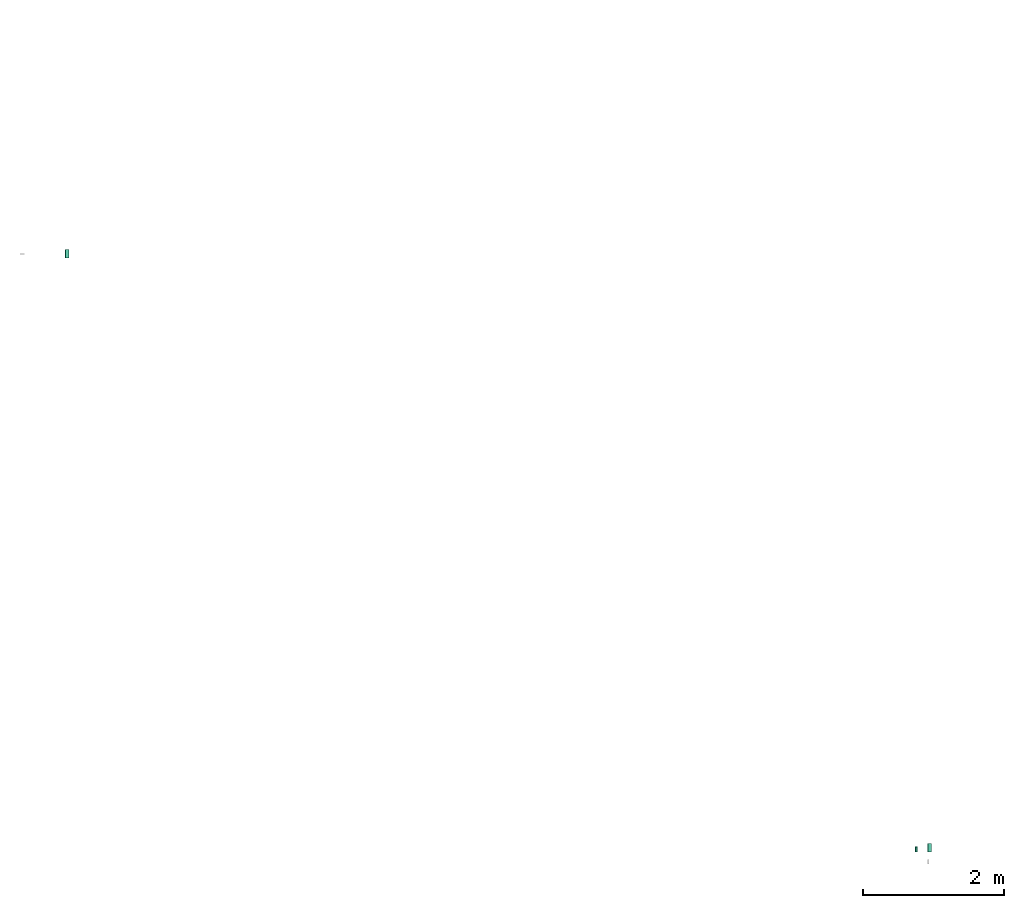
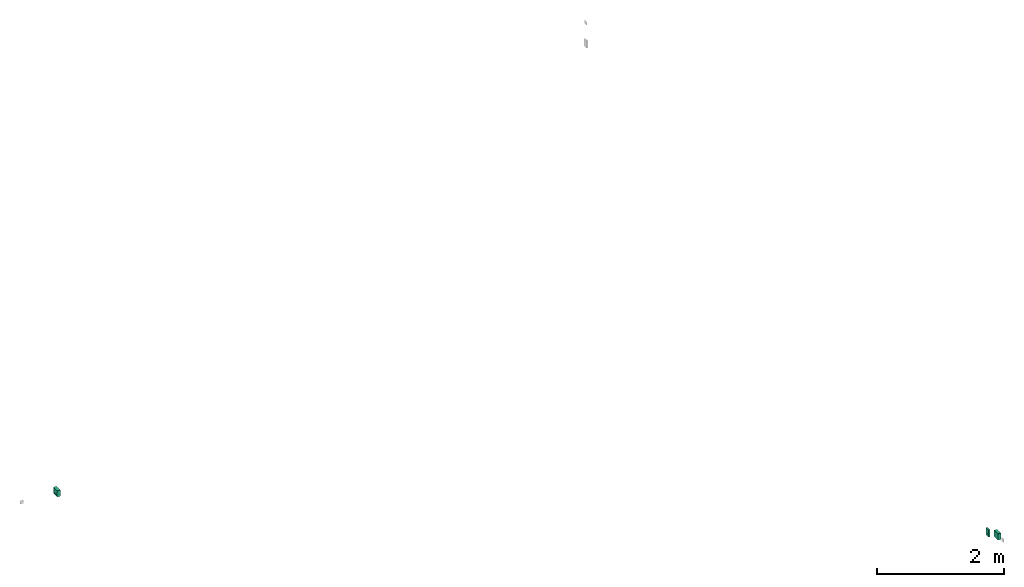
# One storey, part 1 of 5: 3 distribution control elements.
"""IFC2X3 building model written with IfcOpenShell, lengths in millimetres."""

from ifc_helpers import new_model, entity, si_unit, converted_unit, derived_unit, direction, frame, origin_with_axes, place, context, subcontext, project, spatial, open_shell, surface_model, source, transform, mapped, type_object, element, save


model = new_model("IFC2X3")

# Units and contexts
model_context = context("Model", 3, precision=0.01, world=frame((0.0, 4.29681676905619e-09, 0.0)), true_north=direction((4.01073788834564e-13, 1.0)))
plan_context = context("Plan", 3, precision=0.01, world=frame((0.0, 4.29681676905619e-09, 0.0)), true_north=direction((4.01073788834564e-13, 1.0)))
body_context = subcontext(model_context, "Body", "Model", "MODEL_VIEW")
ifc_project = project(units=[converted_unit("PLANEANGLEUNIT", "DEGREE", entity("IfcPositiveLengthMeasure", 0.0174532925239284), si_unit("PLANEANGLEUNIT", "RADIAN"), dimensions=[0, 0, 0, 0, 0, 0, 0]), si_unit("AREAUNIT", "SQUARE_METRE"), si_unit("LENGTHUNIT", "METRE", prefix="MILLI"), si_unit("MASSUNIT", "GRAM", prefix="KILO"), si_unit("POWERUNIT", "WATT"), si_unit("PRESSUREUNIT", "PASCAL"), si_unit("FORCEUNIT", "NEWTON", prefix="KILO"), si_unit("ELECTRICVOLTAGEUNIT", "VOLT"), si_unit("ELECTRICCURRENTUNIT", "AMPERE"), si_unit("THERMODYNAMICTEMPERATUREUNIT", "DEGREE_CELSIUS"), si_unit("TIMEUNIT", "SECOND"), si_unit("VOLUMEUNIT", "CUBIC_METRE"), derived_unit("LINEARVELOCITYUNIT", [(si_unit("LENGTHUNIT", "METRE"), 1), (si_unit("TIMEUNIT", "SECOND"), -1)]), derived_unit("VOLUMETRICFLOWRATEUNIT", [(si_unit("VOLUMEUNIT", "CUBIC_METRE"), 1), (si_unit("TIMEUNIT", "SECOND"), -1)]), derived_unit("THERMALTRANSMITTANCEUNIT", [(si_unit("POWERUNIT", "WATT"), 1), (si_unit("THERMODYNAMICTEMPERATUREUNIT", "KELVIN"), -1), (si_unit("AREAUNIT", "SQUARE_METRE"), -1)]), derived_unit("SOUNDPRESSUREUNIT", [(si_unit("PRESSUREUNIT", "PASCAL"), 1)])], contexts=[model_context, plan_context])

# Site, building, storey
site_placement = place(None, frame((0.0, -4.29681676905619e-09, 0.0), z_axis=(0.0, 0.0, 1.0), x_axis=(1.0, 0.0, 0.0)))
site = spatial("IfcSite", under=ifc_project, at=site_placement, Name="ENGM", CompositionType="ELEMENT")
building_placement = place(site_placement, frame((0.0, 4.29681676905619e-09, 0.0), z_axis=(0.0, 0.0, 1.0), x_axis=(1.0, 0.0, 0.0)))
building = spatial("IfcBuilding", under=site, at=building_placement, Name="TS", CompositionType="ELEMENT")
storey_placement = place(building_placement, frame((0.0, 0.0, 210900.0), z_axis=(0.0, 0.0, 1.0), x_axis=(1.0, 0.0, 0.0)))
storey = spatial("IfcBuildingStorey", under=building, at=storey_placement, Name="Nivå F", CompositionType="ELEMENT", Elevation=210900.0)

# Distribution control elements
alarm_type_1 = type_object("IfcAlarmType", Name="SECURITY ALARM 3", PredefinedType="NOTDEFINED")
shared_shape_1 = source(origin_with_axes(), body_context, "Body", "SurfaceModel", [
    surface_model("IfcShellBasedSurfaceModel", [(14.0, 25.0, 39.91502), (-14.0, 25.0, 39.91502), (14.0, 25.0, 38.91503), (-14.0, 25.0, 38.91503), (14.0, 25.2, 38.91503), (-14.0, 25.2, 38.91503), (14.0, 25.2, 39.91502), (-14.0, 25.2, 39.91502), (14.0, 25.0, 41.92565), (-14.0, 25.0, 41.92565), (14.0, 25.0, 40.92565), (-14.0, 25.0, 40.92565), (14.0, 25.2, 40.92565), (-14.0, 25.2, 40.92565), (14.0, 25.2, 41.92565), (-14.0, 25.2, 41.92565), (14.0, 25.0, 43.93627), (-14.0, 25.0, 43.93627), (14.0, 25.0, 42.93627), (-14.0, 25.0, 42.93627), (14.0, 25.2, 42.93627), (-14.0, 25.2, 42.93627), (14.0, 25.2, 43.93627), (-14.0, 25.2, 43.93627), (14.0, 25.0, 45.94689), (-14.0, 25.0, 45.94689), (14.0, 25.0, 44.94689), (-14.0, 25.0, 44.94689), (14.0, 25.2, 44.94689), (-14.0, 25.2, 44.94689), (14.0, 25.2, 45.94689), (-14.0, 25.2, 45.94689), (14.0, 25.0, 47.95751), (-14.0, 25.0, 47.95751), (14.0, 25.0, 46.95751), (-14.0, 25.0, 46.95751), (14.0, 25.2, 46.95751), (-14.0, 25.2, 46.95751), (14.0, 25.2, 47.95751), (-14.0, 25.2, 47.95751), (14.0, 25.0, 49.96813), (-14.0, 25.0, 49.96813), (14.0, 25.0, 48.96813), (-14.0, 25.0, 48.96813), (14.0, 25.2, 48.96813), (-14.0, 25.2, 48.96813), (14.0, 25.2, 49.96813), (-14.0, 25.2, 49.96813), (14.0, 25.0, 51.97875), (-14.0, 25.0, 51.97875), (14.0, 25.0, 50.97876), (-14.0, 25.0, 50.97876), (14.0, 25.2, 50.97876), (-14.0, 25.2, 50.97876), (14.0, 25.2, 51.97875), (-14.0, 25.2, 51.97875), (14.0, 25.0, 53.98938), (-14.0, 25.0, 53.98938), (14.0, 25.0, 52.98938), (-14.0, 25.0, 52.98938), (14.0, 25.2, 52.98938), (-14.0, 25.2, 52.98938), (14.0, 25.2, 53.98938), (-14.0, 25.2, 53.98938), (14.0, 25.0, 56.0), (-14.0, 25.0, 56.0), (14.0, 25.0, 55.0), (-14.0, 25.0, 55.0), (14.0, 25.2, 55.0), (-14.0, 25.2, 55.0), (14.0, 25.2, 56.0), (-14.0, 25.2, 56.0), (-35.0, 0.0, 70.0), (-35.0, 0.0, -70.0), (35.0, 0.0, -70.0), (35.0, 0.0, 70.0), (35.0, 25.0, 70.0), (35.0, 25.0, -70.0), (-35.0, 25.0, -70.0), (-35.0, 25.0, 70.0), (-21.5, 27.0, -20.2), (-21.5, 27.0, -12.2), (-6.5, 27.0, -20.2), (-6.5, 27.0, -12.2), (-6.5, 25.0, -20.2), (-6.5, 25.0, -12.2), (-21.5, 25.0, -20.2), (-21.5, 25.0, -12.2), (-7.50481, 25.0, -30.45), (-8.6967, 25.0, -39.5033), (-6.75556, 25.0, -32.25886), (-12.05886, 25.0, -26.95556), (-8.6967, 25.0, -28.8967), (-15.94114, 25.0, -41.44445), (-10.25, 25.0, -27.70481), (-6.75556, 25.0, -36.14114), (-7.50481, 25.0, -37.95), (-6.5, 25.0, -34.2), (-12.05886, 25.0, -41.44445), (-10.25, 25.0, -40.69519), (-14.0, 25.0, -41.7), (-14.0, 25.0, -26.7), (-15.94114, 25.0, -26.95556), (-17.75, 25.0, -27.70481), (-19.3033, 25.0, -28.8967), (-21.24444, 25.0, -32.25886), (-20.49519, 25.0, -30.45), (-21.5, 25.0, -34.2), (-19.3033, 25.0, -39.5033), (-17.75, 25.0, -40.69519), (-21.24444, 25.0, -36.14114), (-20.49519, 25.0, -37.95), (-21.24444, 27.0, -32.25886), (-21.24444, 27.0, -36.14114), (-21.5, 27.0, -34.2), (-19.3033, 27.0, -28.8967), (-20.49519, 27.0, -30.45), (-17.75, 27.0, -27.70481), (-15.94114, 27.0, -26.95556), (-8.6967, 27.0, -39.5033), (-15.94114, 27.0, -41.44445), (-19.3033, 27.0, -39.5033), (-20.49519, 27.0, -37.95), (-17.75, 27.0, -40.69519), (-14.0, 27.0, -41.7), (-12.05886, 27.0, -26.95556), (-7.50481, 27.0, -30.45), (-10.25, 27.0, -27.70481), (-8.6967, 27.0, -28.8967), (-6.75556, 27.0, -32.25886), (-12.05886, 27.0, -41.44445), (-10.25, 27.0, -40.69519), (-6.75556, 27.0, -36.14114), (-7.50481, 27.0, -37.95), (-6.5, 27.0, -34.2), (-14.0, 27.0, -26.7), (35.0, 25.2, -49.0), (-35.0, 25.2, -49.0), (-35.0, 25.2, -48.2), (35.0, 25.2, -48.2), (35.0, 25.0, -48.2), (-35.0, 25.0, -48.2), (-35.0, 25.0, -49.0), (35.0, 25.0, -49.0), (28.0, 25.0, 16.0), (-28.0, 25.0, 16.0), (-28.0, 25.0, 2.0), (28.0, 25.0, 2.0), (28.0, 25.2, 2.0), (-28.0, 25.2, 2.0), (-28.0, 25.2, 16.0), (28.0, 25.2, 16.0), (35.0, 25.0, 28.0), (-35.0, 25.0, 28.0), (-35.0, 25.0, 27.2), (35.0, 25.0, 27.2), (35.0, 25.2, 27.2), (-35.0, 25.2, 27.2), (-35.0, 25.2, 28.0), (35.0, 25.2, 28.0)], [open_shell([[[0, 1, 2]], [[3, 2, 1]], [[4, 5, 6]], [[7, 6, 5]], [[3, 1, 7]], [[7, 5, 3]], [[2, 3, 5]], [[5, 4, 2]], [[0, 2, 4]], [[4, 6, 0]], [[1, 0, 6]], [[6, 7, 1]], [[8, 9, 10]], [[11, 10, 9]], [[12, 13, 14]], [[15, 14, 13]], [[11, 9, 15]], [[15, 13, 11]], [[10, 11, 13]], [[13, 12, 10]], [[8, 10, 12]], [[12, 14, 8]], [[9, 8, 14]], [[14, 15, 9]], [[16, 17, 18]], [[19, 18, 17]], [[20, 21, 22]], [[23, 22, 21]], [[19, 17, 23]], [[23, 21, 19]], [[18, 19, 21]], [[21, 20, 18]], [[16, 18, 20]], [[20, 22, 16]], [[17, 16, 22]], [[22, 23, 17]], [[24, 25, 26]], [[27, 26, 25]], [[28, 29, 30]], [[31, 30, 29]], [[27, 25, 31]], [[31, 29, 27]], [[26, 27, 29]], [[29, 28, 26]], [[24, 26, 28]], [[28, 30, 24]], [[25, 24, 30]], [[30, 31, 25]], [[32, 33, 34]], [[35, 34, 33]], [[36, 37, 38]], [[39, 38, 37]], [[35, 33, 39]], [[39, 37, 35]], [[34, 35, 37]], [[37, 36, 34]], [[32, 34, 36]], [[36, 38, 32]], [[33, 32, 38]], [[38, 39, 33]], [[40, 41, 42]], [[43, 42, 41]], [[44, 45, 46]], [[47, 46, 45]], [[43, 41, 47]], [[47, 45, 43]], [[42, 43, 45]], [[45, 44, 42]], [[40, 42, 44]], [[44, 46, 40]], [[41, 40, 46]], [[46, 47, 41]], [[48, 49, 50]], [[51, 50, 49]], [[52, 53, 54]], [[55, 54, 53]], [[51, 49, 55]], [[55, 53, 51]], [[50, 51, 53]], [[53, 52, 50]], [[48, 50, 52]], [[52, 54, 48]], [[49, 48, 54]], [[54, 55, 49]], [[56, 57, 58]], [[59, 58, 57]], [[60, 61, 62]], [[63, 62, 61]], [[59, 57, 63]], [[63, 61, 59]], [[58, 59, 61]], [[61, 60, 58]], [[56, 58, 60]], [[60, 62, 56]], [[57, 56, 62]], [[62, 63, 57]], [[64, 65, 66]], [[67, 66, 65]], [[68, 69, 70]], [[71, 70, 69]], [[67, 65, 71]], [[71, 69, 67]], [[66, 67, 69]], [[69, 68, 66]], [[64, 66, 68]], [[68, 70, 64]], [[65, 64, 70]], [[70, 71, 65]], [[72, 73, 74]], [[74, 75, 72]], [[76, 77, 78]], [[78, 79, 76]], [[74, 73, 78]], [[78, 77, 74]], [[75, 74, 77]], [[77, 76, 75]], [[72, 75, 76]], [[76, 79, 72]], [[73, 72, 78]], [[79, 78, 72]], [[80, 81, 82]], [[83, 82, 81]], [[84, 85, 86]], [[87, 86, 85]], [[83, 81, 85]], [[87, 85, 81]], [[82, 83, 85]], [[85, 84, 82]], [[80, 82, 86]], [[84, 86, 82]], [[81, 80, 87]], [[86, 87, 80]], [[88, 89, 90]], [[91, 88, 92]], [[89, 88, 93]], [[91, 92, 94]], [[93, 88, 91]], [[95, 89, 96]], [[89, 95, 97]], [[89, 98, 99]], [[89, 97, 90]], [[89, 100, 98]], [[91, 101, 102]], [[102, 103, 104]], [[91, 104, 93]], [[93, 104, 105]], [[105, 104, 106]], [[93, 105, 107]], [[93, 108, 109]], [[100, 89, 93]], [[108, 110, 111]], [[108, 93, 107]], [[110, 108, 107]], [[91, 102, 104]], [[112, 113, 114]], [[115, 112, 116]], [[115, 117, 118]], [[112, 115, 119]], [[119, 120, 112]], [[113, 121, 122]], [[113, 112, 121]], [[121, 120, 123]], [[112, 120, 121]], [[120, 119, 124]], [[118, 119, 115]], [[119, 118, 125]], [[126, 125, 127]], [[119, 125, 126]], [[126, 127, 128]], [[119, 126, 129]], [[130, 119, 131]], [[124, 119, 130]], [[119, 132, 133]], [[132, 119, 134]], [[129, 134, 119]], [[118, 135, 125]], [[98, 124, 130]], [[131, 99, 130]], [[96, 119, 133]], [[119, 89, 131]], [[132, 95, 133]], [[130, 99, 98]], [[98, 100, 124]], [[95, 96, 133]], [[89, 119, 96]], [[89, 99, 131]], [[97, 95, 132]], [[132, 134, 97]], [[129, 90, 134]], [[126, 88, 129]], [[94, 128, 127]], [[128, 92, 126]], [[127, 125, 91]], [[126, 92, 88]], [[88, 90, 129]], [[101, 91, 125]], [[94, 127, 91]], [[94, 92, 128]], [[135, 101, 125]], [[134, 90, 97]], [[118, 102, 135]], [[117, 103, 118]], [[106, 115, 116]], [[117, 115, 104]], [[105, 116, 112]], [[118, 103, 102]], [[102, 101, 135]], [[105, 106, 116]], [[104, 115, 106]], [[104, 103, 117]], [[107, 105, 112]], [[112, 114, 107]], [[113, 110, 114]], [[122, 111, 113]], [[109, 121, 123]], [[122, 121, 108]], [[93, 123, 120]], [[122, 108, 111]], [[111, 110, 113]], [[100, 93, 120]], [[109, 123, 93]], [[109, 108, 121]], [[124, 100, 120]], [[114, 110, 107]], [[136, 137, 138]], [[138, 139, 136]], [[140, 141, 142]], [[142, 143, 140]], [[138, 137, 142]], [[142, 141, 138]], [[139, 138, 140]], [[141, 140, 138]], [[136, 139, 140]], [[140, 143, 136]], [[137, 136, 142]], [[143, 142, 136]], [[144, 145, 146]], [[146, 147, 144]], [[148, 149, 150]], [[150, 151, 148]], [[146, 145, 150]], [[150, 149, 146]], [[147, 146, 148]], [[149, 148, 146]], [[144, 147, 148]], [[148, 151, 144]], [[145, 144, 150]], [[151, 150, 144]], [[152, 153, 154]], [[154, 155, 152]], [[156, 157, 158]], [[158, 159, 156]], [[154, 153, 158]], [[158, 157, 154]], [[155, 154, 156]], [[157, 156, 154]], [[152, 155, 156]], [[156, 159, 152]], [[153, 152, 158]], [[159, 158, 152]]])]),
])
distribution_control_element_placement = place(storey_placement, frame((533585.85006, 446833.3, 1000.0), z_axis=(0.0, 0.0, 1.0), x_axis=(-0.0134269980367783, 0.999909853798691, 0.0)))
element("IfcDistributionControlElement", 1, at=distribution_control_element_placement, inside=storey, type_object=alarm_type_1, Name="SECURITY ALARM 3", context=body_context, shape_type="MappedRepresentation", body=[
    mapped(shared_shape_1, transform((0.0, 0.0, 0.0), scale=1.0)),
])
alarm_type_2 = type_object("IfcAlarmType", Name="Nødåpner", PredefinedType="NOTDEFINED")
shared_shape_2 = source(origin_with_axes(), body_context, "Body", "SurfaceModel", [
    surface_model("IfcShellBasedSurfaceModel", [(58.0, 55.0, -50.0), (50.05331, 55.0, -35.88319), (-49.94669, 55.0, -35.88319), (58.0, 55.0, 50.0), (-58.0, 55.0, -50.0), (-58.0, 55.0, 50.0), (50.05331, 55.0, 40.0), (-49.94669, 55.0, 40.0), (-58.0, 58.0, -47.0), (-49.94669, 58.0, -35.88319), (58.0, 58.0, -47.0), (-58.0, 58.0, 47.0), (50.05331, 58.0, -35.88319), (58.0, 58.0, 47.0), (-49.94669, 58.0, 40.0), (50.05331, 58.0, 40.0), (60.0, 52.03664, -58.0), (50.05331, 52.03664, -35.88319), (-49.94669, 52.03664, -35.88319), (60.0, 52.03664, 58.0), (-60.0, 52.03664, -58.0), (-60.0, 52.03664, 58.0), (50.05331, 52.03664, 40.0), (-49.94669, 52.03664, 40.0), (60.0, 55.03664, 58.0), (50.05331, 55.03664, 40.0), (-49.94669, 55.03664, 40.0), (50.05331, 55.03664, -35.88319), (-60.0, 55.03664, 58.0), (-49.94669, 55.03664, -35.88319), (60.0, 55.03664, -58.0), (-60.0, 55.03664, -58.0), (61.0, 52.0, -58.0), (50.05331, 52.0, -35.88319), (61.0, 52.0, 58.0), (-49.94669, 52.0, -35.88319), (50.05331, 52.0, 40.0), (-49.94669, 52.0, 40.0), (-61.0, 52.0, -58.0), (-61.0, 52.0, 58.0), (-61.0, 3.0, 58.0), (-61.0, 3.0, -58.0), (61.0, 3.0, 58.0), (61.0, 3.0, -58.0), (50.05331, 48.40679, 40.0), (-49.94669, 48.40679, 40.0), (-49.94669, 48.40679, -35.88319), (50.05331, 48.40679, -35.88319), (-58.0, 3.0, -58.0), (-58.0, 1.5, -60.59808), (-58.0, 2.22354, -60.89778), (-58.0, 0.87868, -60.12132), (-58.0, 3.0, -61.0), (-58.0, 0.40192, -59.5), (-58.0, 0.10222, -58.77646), (-58.0, 0.0, -58.0), (-58.77646, 3.0, -60.89778), (-59.5, 3.0, -60.59808), (-60.12132, 3.0, -60.12132), (-60.89778, 3.0, -58.77646), (-60.59808, 3.0, -59.5), (-60.12132, 0.87868, -58.0), (58.0, 3.0, -58.0), (-58.0, 52.0, -58.0), (58.0, 52.0, -58.0), (-58.0, 52.0, -61.0), (58.0, 52.0, -61.0), (58.0, 3.0, -61.0), (59.5, 3.0, -60.59808), (58.77646, 3.0, -60.89778), (60.12132, 3.0, -60.12132), (60.89778, 3.0, -58.77646), (60.59808, 3.0, -59.5), (58.0, 2.22354, -60.89778), (58.0, 1.5, -60.59808), (58.0, 0.87868, -60.12132), (58.0, 0.10222, -58.77646), (58.0, 0.40192, -59.5), (58.0, 0.0, -58.0), (60.12132, 0.87868, -58.0), (60.93149, 52.0, -58.78549), (60.6283, 52.0, -59.51745), (60.146, 52.0, -60.146), (61.03491, 52.0, -58.0), (59.51745, 52.0, -60.6283), (58.78549, 52.0, -60.93149), (58.0, 52.0, -61.03491), (60.6283, 3.0, -59.51745), (60.93149, 3.0, -58.78549), (60.146, 3.0, -60.146), (61.03491, 3.0, -58.0), (58.78549, 3.0, -60.93149), (59.51745, 3.0, -60.6283), (58.0, 3.0, -61.03491), (-58.0, 0.14042, -58.76622), (-58.0, 0.03955, -58.0), (-58.0, 0.90664, -60.09336), (-58.0, 0.43617, -59.48023), (-58.0, 1.51977, -60.56383), (-58.0, 2.23378, -60.85958), (-58.0, 3.0, -60.96045), (58.0, 0.03955, -58.0), (58.0, 0.14042, -58.76622), (58.0, 0.43617, -59.48023), (58.0, 0.90664, -60.09336), (58.0, 2.23378, -60.85958), (58.0, 1.51977, -60.56383), (58.0, 3.0, -60.96045), (-57.99994, 52.0, -58.00004), (-60.85952, 52.0, -58.76627), (-60.96039, 52.0, -58.00004), (-60.09329, 52.0, -60.0934), (-60.56376, 52.0, -59.48027), (-59.48016, 52.0, -60.56387), (-58.76616, 52.0, -60.85963), (-57.99994, 52.0, -60.9605), (-60.96039, 3.0, -58.00004), (-60.85952, 3.0, -58.76627), (-57.99994, 3.0, -58.00004), (-60.56376, 3.0, -59.48027), (-60.09329, 3.0, -60.0934), (-58.76616, 3.0, -60.85963), (-59.48016, 3.0, -60.56387), (-57.99994, 3.0, -60.9605), (58.0, 3.0, 61.0), (58.77646, 3.0, 60.89778), (58.0, 3.0, 58.0), (59.5, 3.0, 60.59808), (60.12132, 3.0, 60.12132), (60.89778, 3.0, 58.77646), (60.59808, 3.0, 59.5), (58.0, 2.22354, 60.89778), (58.0, 0.87868, 60.12132), (58.0, 1.5, 60.59808), (58.0, 0.40192, 59.5), (58.0, 0.10222, 58.77646), (58.0, 0.0, 58.0), (60.12132, 0.87868, 58.0), (-58.0, 3.0, 58.0), (-59.5, 3.0, 60.59808), (-58.77646, 3.0, 60.89778), (-60.12132, 3.0, 60.12132), (-58.0, 3.0, 61.0), (-60.89778, 3.0, 58.77646), (-60.59808, 3.0, 59.5), (-58.0, 2.22354, 60.89778), (-58.0, 1.5, 60.59808), (-58.0, 0.87868, 60.12132), (-58.0, 0.40192, 59.5), (-58.0, 0.10222, 58.77646), (-58.0, 0.0, 58.0), (-60.12132, 0.87868, 58.0), (58.0, 52.0, 61.0), (-58.0, 52.0, 61.0), (-58.0, 52.0, 58.0), (58.0, 52.0, 58.0), (60.93149, 3.0, 58.78549), (60.6283, 3.0, 59.51745), (60.146, 3.0, 60.146), (61.03491, 3.0, 58.0), (58.78549, 3.0, 60.93149), (59.51745, 3.0, 60.6283), (58.0, 3.0, 61.03491), (60.6283, 52.0, 59.51745), (60.93149, 52.0, 58.78549), (60.146, 52.0, 60.146), (61.03491, 52.0, 58.0), (59.51745, 52.0, 60.6283), (58.78549, 52.0, 60.93149), (58.0, 52.0, 61.03491), (57.99759, 3.00092, -58.0), (58.76381, 0.14134, -58.0), (57.99759, 0.04046, -58.0), (60.09094, 0.90756, -58.0), (59.47781, 0.43709, -58.0), (60.56141, 1.52069, -58.0), (60.85716, 2.2347, -58.0), (60.95804, 3.00092, -58.0), (57.99759, 0.04046, 58.0), (58.76381, 0.14134, 58.0), (57.99759, 3.00092, 58.0), (59.47781, 0.43709, 58.0), (60.09094, 0.90756, 58.0), (60.85716, 2.2347, 58.0), (60.56141, 1.52069, 58.0), (60.95804, 3.00092, 58.0), (58.0, 3.004, 58.0008), (58.0, 0.14442, 58.76702), (58.0, 0.04355, 58.0008), (58.0, 0.91064, 60.09415), (58.0, 0.44017, 59.48102), (58.0, 1.52377, 60.56462), (58.0, 2.23778, 60.86037), (58.0, 3.004, 60.96125), (-58.0, 0.04355, 58.0008), (-58.0, 0.14442, 58.76702), (-58.0, 3.004, 58.0008), (-58.0, 0.44017, 59.48102), (-58.0, 0.91064, 60.09415), (-58.0, 2.23778, 60.86037), (-58.0, 1.52377, 60.56462), (-58.0, 3.004, 60.96125), (-58.76623, 0.14041, 58.0), (-58.0, 0.03954, 58.0), (-60.09336, 0.90664, 58.0), (-59.48023, 0.43616, 58.0), (-60.56383, 1.51977, 58.0), (-60.85958, 2.23377, 58.0), (-60.96046, 2.99999, 58.0), (-58.76623, 0.14041, -58.0), (-59.48023, 0.43616, -58.0), (-60.09336, 0.90664, -58.0), (-60.85958, 2.23377, -58.0), (-60.56383, 1.51977, -58.0), (-60.96046, 2.99999, -58.0), (-60.85958, 3.0, 58.76622), (-60.09336, 3.0, 60.09336), (-60.56383, 3.0, 59.48023), (-59.48023, 3.0, 60.56383), (-58.76622, 3.0, 60.85958), (-58.0, 3.0, 60.96045), (-60.96045, 52.0, 58.0), (-60.85958, 52.0, 58.76622), (-60.56383, 52.0, 59.48023), (-60.09336, 52.0, 60.09336), (-58.76622, 52.0, 60.85958), (-59.48023, 52.0, 60.56383), (-58.0, 52.0, 60.96045)], [open_shell([[[0, 1, 2]], [[1, 0, 3]], [[4, 2, 5]], [[2, 4, 0]], [[6, 3, 7]], [[3, 6, 1]], [[7, 5, 2]], [[5, 7, 3]], [[8, 9, 10]], [[9, 8, 11]], [[10, 12, 13]], [[12, 10, 9]], [[14, 11, 13]], [[11, 14, 9]], [[15, 13, 12]], [[13, 15, 14]], [[0, 10, 13]], [[13, 3, 0]], [[3, 13, 11]], [[11, 5, 3]], [[5, 11, 4]], [[8, 4, 11]], [[4, 8, 10]], [[10, 0, 4]], [[14, 15, 6]], [[6, 7, 14]], [[12, 9, 2]], [[2, 1, 12]], [[2, 14, 7]], [[14, 2, 9]], [[1, 6, 15]], [[15, 12, 1]], [[16, 17, 18]], [[17, 16, 19]], [[20, 18, 21]], [[18, 20, 16]], [[22, 19, 23]], [[19, 22, 17]], [[23, 21, 18]], [[21, 23, 19]], [[24, 25, 26]], [[25, 24, 27]], [[28, 26, 29]], [[26, 28, 24]], [[27, 30, 29]], [[30, 27, 24]], [[29, 31, 28]], [[31, 29, 30]], [[19, 16, 30]], [[30, 24, 19]], [[21, 19, 24]], [[24, 28, 21]], [[20, 21, 28]], [[28, 31, 20]], [[16, 20, 31]], [[31, 30, 16]], [[26, 25, 22]], [[22, 23, 26]], [[27, 29, 18]], [[18, 17, 27]], [[29, 26, 23]], [[23, 18, 29]], [[17, 22, 25]], [[25, 27, 17]], [[32, 33, 34]], [[33, 32, 35]], [[34, 36, 37]], [[36, 34, 33]], [[35, 38, 39]], [[38, 35, 32]], [[37, 39, 34]], [[39, 37, 35]], [[40, 41, 42]], [[43, 42, 41]], [[38, 32, 43]], [[43, 41, 38]], [[39, 38, 41]], [[41, 40, 39]], [[34, 39, 40]], [[40, 42, 34]], [[32, 34, 42]], [[42, 43, 32]], [[37, 36, 44]], [[44, 45, 37]], [[33, 35, 46]], [[46, 47, 33]], [[46, 37, 45]], [[37, 46, 35]], [[46, 45, 44]], [[44, 47, 46]], [[47, 44, 36]], [[36, 33, 47]], [[48, 49, 50]], [[49, 48, 51]], [[50, 52, 48]], [[53, 48, 54]], [[51, 48, 53]], [[54, 48, 55]], [[56, 57, 48]], [[58, 48, 57]], [[48, 52, 56]], [[59, 48, 60]], [[60, 48, 58]], [[41, 48, 59]], [[61, 48, 41]], [[48, 61, 55]], [[51, 53, 58]], [[49, 51, 57]], [[54, 61, 53]], [[50, 49, 52]], [[54, 55, 61]], [[61, 41, 59]], [[61, 59, 60]], [[57, 51, 58]], [[53, 60, 58]], [[49, 57, 52]], [[52, 57, 56]], [[53, 61, 60]], [[48, 62, 63]], [[64, 63, 62]], [[65, 66, 52]], [[67, 52, 66]], [[64, 62, 67]], [[67, 66, 64]], [[63, 64, 66]], [[66, 65, 63]], [[48, 63, 65]], [[65, 52, 48]], [[62, 48, 52]], [[52, 67, 62]], [[62, 68, 69]], [[68, 62, 70]], [[69, 67, 62]], [[71, 72, 62]], [[70, 62, 72]], [[62, 43, 71]], [[73, 74, 62]], [[75, 62, 74]], [[62, 67, 73]], [[76, 62, 77]], [[77, 62, 75]], [[78, 62, 76]], [[79, 62, 78]], [[62, 79, 43]], [[72, 75, 70]], [[74, 68, 70]], [[79, 72, 71]], [[69, 68, 67]], [[71, 43, 79]], [[79, 78, 76]], [[79, 76, 77]], [[74, 70, 75]], [[72, 77, 75]], [[68, 74, 67]], [[67, 74, 73]], [[72, 79, 77]], [[80, 81, 64]], [[82, 64, 81]], [[64, 83, 80]], [[64, 84, 85]], [[84, 64, 82]], [[85, 86, 64]], [[62, 87, 88]], [[87, 62, 89]], [[88, 90, 62]], [[91, 92, 62]], [[89, 62, 92]], [[62, 93, 91]], [[64, 86, 62]], [[93, 62, 86]], [[83, 64, 62]], [[62, 90, 83]], [[88, 87, 80]], [[90, 88, 83]], [[83, 88, 80]], [[80, 87, 81]], [[87, 82, 81]], [[87, 89, 82]], [[91, 93, 86]], [[92, 91, 85]], [[92, 82, 89]], [[92, 84, 82]], [[84, 92, 85]], [[91, 86, 85]], [[48, 94, 95]], [[96, 97, 48]], [[94, 48, 97]], [[98, 48, 99]], [[99, 48, 100]], [[96, 48, 98]], [[101, 102, 62]], [[62, 103, 104]], [[103, 62, 102]], [[105, 62, 106]], [[107, 62, 105]], [[106, 62, 104]], [[48, 95, 62]], [[101, 62, 95]], [[100, 48, 107]], [[62, 107, 48]], [[99, 107, 105]], [[98, 105, 106]], [[100, 107, 99]], [[99, 105, 98]], [[106, 96, 98]], [[106, 104, 96]], [[94, 103, 102]], [[95, 102, 101]], [[104, 97, 96]], [[104, 103, 97]], [[97, 103, 94]], [[102, 95, 94]], [[108, 109, 110]], [[111, 112, 108]], [[109, 108, 112]], [[113, 108, 114]], [[114, 108, 115]], [[111, 108, 113]], [[116, 117, 118]], [[118, 119, 120]], [[119, 118, 117]], [[121, 118, 122]], [[123, 118, 121]], [[122, 118, 120]], [[108, 110, 116]], [[116, 118, 108]], [[115, 108, 118]], [[118, 123, 115]], [[121, 122, 113]], [[123, 121, 115]], [[115, 121, 114]], [[120, 111, 113]], [[121, 113, 114]], [[113, 122, 120]], [[117, 116, 110]], [[119, 117, 109]], [[120, 112, 111]], [[120, 119, 112]], [[112, 119, 109]], [[117, 110, 109]], [[124, 125, 126]], [[126, 127, 128]], [[127, 126, 125]], [[129, 126, 130]], [[42, 126, 129]], [[130, 126, 128]], [[126, 131, 124]], [[132, 133, 126]], [[131, 126, 133]], [[134, 126, 135]], [[135, 126, 136]], [[132, 126, 134]], [[137, 129, 130]], [[134, 130, 128]], [[127, 125, 124]], [[127, 132, 128]], [[42, 129, 137]], [[127, 124, 133]], [[124, 131, 133]], [[134, 128, 132]], [[127, 133, 132]], [[130, 134, 137]], [[135, 136, 137]], [[135, 137, 134]], [[136, 126, 137]], [[42, 137, 126]], [[138, 139, 140]], [[139, 138, 141]], [[140, 142, 138]], [[143, 144, 138]], [[141, 138, 144]], [[138, 40, 143]], [[145, 146, 138]], [[147, 138, 146]], [[138, 142, 145]], [[138, 148, 149]], [[148, 138, 147]], [[149, 150, 138]], [[151, 138, 150]], [[138, 151, 40]], [[141, 144, 147]], [[139, 141, 146]], [[143, 151, 144]], [[140, 139, 142]], [[143, 40, 151]], [[151, 150, 149]], [[151, 149, 148]], [[146, 141, 147]], [[144, 148, 147]], [[139, 146, 142]], [[142, 146, 145]], [[144, 151, 148]], [[124, 152, 142]], [[153, 142, 152]], [[138, 154, 126]], [[155, 126, 154]], [[153, 152, 155]], [[155, 154, 153]], [[142, 153, 154]], [[154, 138, 142]], [[124, 142, 138]], [[138, 126, 124]], [[152, 124, 126]], [[126, 155, 152]], [[156, 157, 126]], [[158, 126, 157]], [[126, 159, 156]], [[160, 126, 161]], [[161, 126, 158]], [[162, 126, 160]], [[155, 163, 164]], [[163, 155, 165]], [[164, 166, 155]], [[167, 155, 168]], [[165, 155, 167]], [[168, 155, 169]], [[126, 162, 169]], [[169, 155, 126]], [[159, 126, 155]], [[155, 166, 159]], [[164, 163, 156]], [[166, 164, 159]], [[159, 164, 156]], [[156, 163, 157]], [[163, 158, 157]], [[163, 165, 158]], [[168, 169, 162]], [[167, 168, 160]], [[167, 158, 165]], [[167, 161, 158]], [[161, 167, 160]], [[168, 162, 160]], [[170, 171, 172]], [[173, 174, 170]], [[171, 170, 174]], [[175, 170, 176]], [[176, 170, 177]], [[173, 170, 175]], [[178, 179, 180]], [[180, 181, 182]], [[181, 180, 179]], [[183, 180, 184]], [[185, 180, 183]], [[184, 180, 182]], [[170, 172, 180]], [[178, 180, 172]], [[177, 170, 185]], [[180, 185, 170]], [[176, 185, 183]], [[175, 183, 184]], [[177, 185, 176]], [[176, 183, 175]], [[184, 173, 175]], [[184, 182, 173]], [[171, 181, 179]], [[172, 179, 178]], [[182, 174, 173]], [[182, 181, 174]], [[174, 181, 171]], [[179, 172, 171]], [[186, 187, 188]], [[189, 190, 186]], [[187, 186, 190]], [[191, 186, 192]], [[192, 186, 193]], [[189, 186, 191]], [[194, 195, 196]], [[196, 197, 198]], [[197, 196, 195]], [[199, 196, 200]], [[201, 196, 199]], [[200, 196, 198]], [[186, 188, 196]], [[194, 196, 188]], [[193, 186, 201]], [[196, 201, 186]], [[192, 201, 199]], [[191, 199, 200]], [[193, 201, 192]], [[192, 199, 191]], [[200, 189, 191]], [[200, 198, 189]], [[187, 197, 195]], [[188, 195, 194]], [[198, 190, 189]], [[198, 197, 190]], [[190, 197, 187]], [[195, 188, 187]], [[138, 202, 203]], [[204, 205, 138]], [[202, 138, 205]], [[206, 138, 207]], [[207, 138, 208]], [[204, 138, 206]], [[95, 209, 48]], [[48, 210, 211]], [[210, 48, 209]], [[212, 48, 213]], [[214, 48, 212]], [[213, 48, 211]], [[138, 203, 48]], [[95, 48, 203]], [[208, 138, 214]], [[48, 214, 138]], [[207, 214, 212]], [[206, 212, 213]], [[208, 214, 207]], [[207, 212, 206]], [[213, 204, 206]], [[213, 211, 204]], [[202, 210, 209]], [[203, 209, 95]], [[211, 205, 204]], [[211, 210, 205]], [[205, 210, 202]], [[209, 203, 202]], [[138, 215, 208]], [[216, 217, 138]], [[215, 138, 217]], [[218, 138, 219]], [[219, 138, 220]], [[216, 138, 218]], [[221, 222, 154]], [[154, 223, 224]], [[223, 154, 222]], [[225, 154, 226]], [[227, 154, 225]], [[226, 154, 224]], [[138, 208, 154]], [[221, 154, 208]], [[220, 138, 154]], [[154, 227, 220]], [[225, 226, 218]], [[227, 225, 220]], [[220, 225, 219]], [[224, 216, 218]], [[225, 218, 219]], [[218, 226, 224]], [[222, 221, 208]], [[223, 222, 215]], [[224, 217, 216]], [[224, 223, 217]], [[217, 223, 215]], [[222, 208, 215]], [[55, 78, 150]], [[136, 150, 78]], [[138, 126, 48]], [[62, 48, 126]], [[136, 78, 62]], [[62, 126, 136]], [[150, 136, 126]], [[126, 138, 150]], [[55, 150, 138]], [[138, 48, 55]], [[78, 55, 48]], [[48, 62, 78]]])]),
])
for number, where, z_axis, x_axis in (
    (2, (533734.5375, 446856.5836, 874.0), (0.0, 0.0, 1.0), (0.0, -1.0, 0.0)),
    (3, (521580.17571, 455268.27792, 874.0), (0.0, 0.0, 1.0), (-0.00272200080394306, 0.99999629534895, 0.0)),
):
    element("IfcDistributionControlElement", number, at=place(storey_placement, frame(where, z_axis=z_axis, x_axis=x_axis)), inside=storey, type_object=alarm_type_2, Name="Nødåpner", context=body_context, shape_type="MappedRepresentation", body=[
        mapped(shared_shape_2, transform((0.0, 0.0, 0.0), scale=1.0)),
    ])

save(model, "model.ifc")
